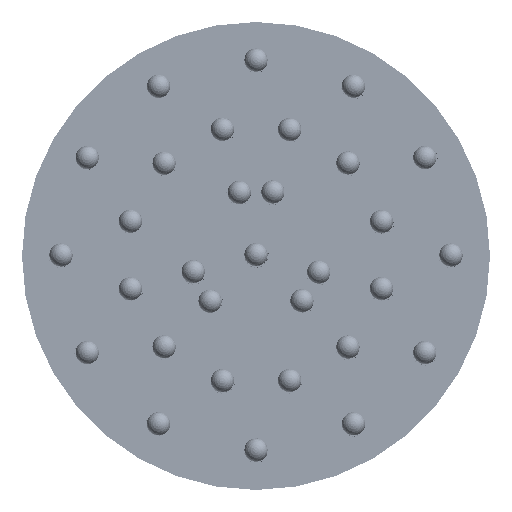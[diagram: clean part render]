
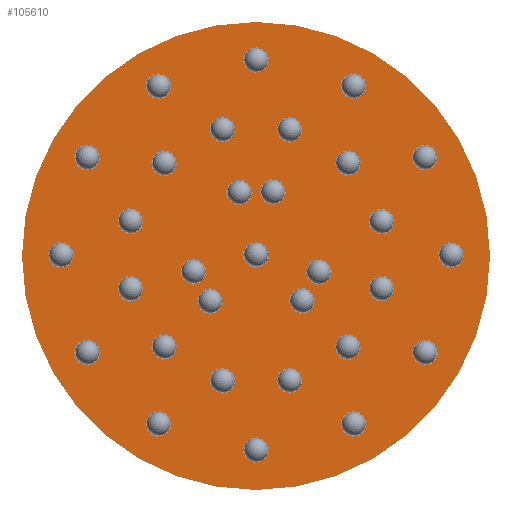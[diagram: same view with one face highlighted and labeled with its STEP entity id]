
A CAD part, top view. The second image highlights one B-rep face of the part: STEP entity #105610.
In plain terms, the highlighted planar face has unit normal (0, 0, 1).
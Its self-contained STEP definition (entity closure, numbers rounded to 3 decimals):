
#21959=FACE_OUTER_BOUND('',#28251,.T.);
#28251=EDGE_LOOP('',(#65165));
#34657=CIRCLE('',#112171,450.);
#40401=VERTEX_POINT('',#157551);
#49940=EDGE_CURVE('',#40401,#40401,#34657,.T.);
#65165=ORIENTED_EDGE('',*,*,#49940,.F.);
#95615=PLANE('',#112170);
#105610=ADVANCED_FACE('',(#21959),#95615,.T.);
#112170=AXIS2_PLACEMENT_3D('',#157550,#124212,#124213);
#112171=AXIS2_PLACEMENT_3D('',#157552,#124214,#124215);
#124212=DIRECTION('center_axis',(0.,0.,1.));
#124213=DIRECTION('ref_axis',(1.,0.,0.));
#124214=DIRECTION('center_axis',(0.,0.,-1.));
#124215=DIRECTION('ref_axis',(1.,0.,0.));
#157550=CARTESIAN_POINT('Origin',(0.,0.,1.5));
#157551=CARTESIAN_POINT('',(-450.,0.,1.5));
#157552=CARTESIAN_POINT('Origin',(0.,0.,1.5));
